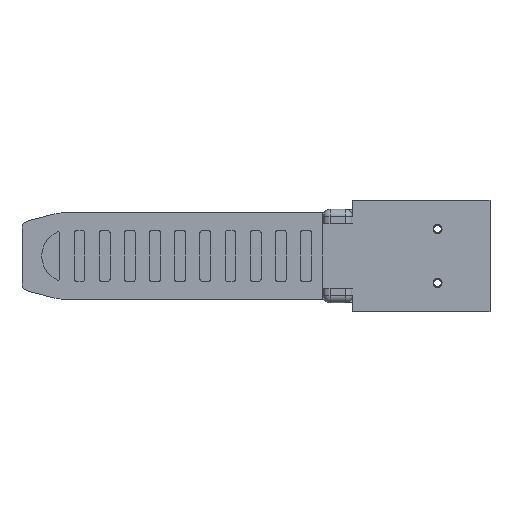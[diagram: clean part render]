
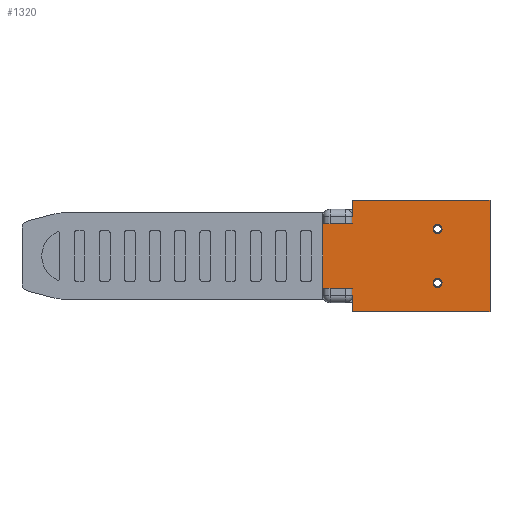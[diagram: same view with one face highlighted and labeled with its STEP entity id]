
A CAD part, front view. The second image highlights one B-rep face of the part: STEP entity #1320.
In plain terms, the highlighted planar face has unit normal (0, -1, 0).
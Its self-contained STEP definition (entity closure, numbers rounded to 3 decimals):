
#39 = CARTESIAN_POINT ( 'NONE',  ( -19., -5., 15.5 ) ) ;
#89 = DIRECTION ( 'NONE',  ( 0., 1., 0. ) ) ;
#334 = ORIENTED_EDGE ( 'NONE', *, *, #13799, .F. ) ;
#492 = LINE ( 'NONE', #6622, #7184 ) ;
#755 = EDGE_CURVE ( 'NONE', #1355, #4166, #492, .T. ) ;
#1320 = ADVANCED_FACE ( 'NONE', ( #5342, #4951, #8392 ), #7718, .F. ) ;
#1345 = VERTEX_POINT ( 'NONE', #1957 ) ;
#1355 = VERTEX_POINT ( 'NONE', #2469 ) ;
#1384 = DIRECTION ( 'NONE',  ( 1., 0., 0. ) ) ;
#1479 = EDGE_LOOP ( 'NONE', ( #5477, #13868 ) ) ;
#1492 = CARTESIAN_POINT ( 'NONE',  ( -10.8, -5., 15.5 ) ) ;
#1872 = CARTESIAN_POINT ( 'NONE',  ( 27.5, -5., 15.5 ) ) ;
#1957 = CARTESIAN_POINT ( 'NONE',  ( -10.8, -5., -15.5 ) ) ;
#1966 = ORIENTED_EDGE ( 'NONE', *, *, #755, .F. ) ;
#2060 = VERTEX_POINT ( 'NONE', #5988 ) ;
#2201 = CARTESIAN_POINT ( 'NONE',  ( -19., -5., -10.9 ) ) ;
#2317 = VERTEX_POINT ( 'NONE', #12725 ) ;
#2420 = VERTEX_POINT ( 'NONE', #6212 ) ;
#2469 = CARTESIAN_POINT ( 'NONE',  ( -10.8, -5., -10.9 ) ) ;
#2632 = CIRCLE ( 'NONE', #12466, 1.25 ) ;
#2909 = DIRECTION ( 'NONE',  ( 0., 1., 0. ) ) ;
#3205 = DIRECTION ( 'NONE',  ( 0., 0., -1. ) ) ;
#3233 = CARTESIAN_POINT ( 'NONE',  ( -10.8, -5., 15.5 ) ) ;
#3289 = CARTESIAN_POINT ( 'NONE',  ( 12.9, -5., 7.5 ) ) ;
#3629 = EDGE_CURVE ( 'NONE', #13104, #13246, #2632, .T. ) ;
#3730 = ORIENTED_EDGE ( 'NONE', *, *, #14309, .T. ) ;
#3731 = ORIENTED_EDGE ( 'NONE', *, *, #11226, .T. ) ;
#3859 = CIRCLE ( 'NONE', #6629, 1.25 ) ;
#4166 = VERTEX_POINT ( 'NONE', #2201 ) ;
#4224 = DIRECTION ( 'NONE',  ( 1., 0., 0. ) ) ;
#4445 = CIRCLE ( 'NONE', #15540, 1.25 ) ;
#4639 = LINE ( 'NONE', #11979, #14558 ) ;
#4656 = DIRECTION ( 'NONE',  ( 0., 0., 1. ) ) ;
#4804 = LINE ( 'NONE', #39, #11256 ) ;
#4925 = VECTOR ( 'NONE', #8530, 1000. ) ;
#4951 = FACE_BOUND ( 'NONE', #1479, .T. ) ;
#5125 = DIRECTION ( 'NONE',  ( 1., 0., 0. ) ) ;
#5180 = CARTESIAN_POINT ( 'NONE',  ( 12.9, -5., 7.5 ) ) ;
#5189 = DIRECTION ( 'NONE',  ( 0., 0., 1. ) ) ;
#5242 = DIRECTION ( 'NONE',  ( 0., 1., 0. ) ) ;
#5342 = FACE_BOUND ( 'NONE', #14381, .T. ) ;
#5407 = CARTESIAN_POINT ( 'NONE',  ( 12.9, -5., -8.75 ) ) ;
#5477 = ORIENTED_EDGE ( 'NONE', *, *, #6409, .T. ) ;
#5557 = EDGE_LOOP ( 'NONE', ( #1966, #8369, #3731, #14544, #7692, #10459, #334, #16946 ) ) ;
#5939 = CARTESIAN_POINT ( 'NONE',  ( -19., -5., 15.5 ) ) ;
#5988 = CARTESIAN_POINT ( 'NONE',  ( 12.9, -5., -6.25 ) ) ;
#6139 = LINE ( 'NONE', #6419, #15630 ) ;
#6212 = CARTESIAN_POINT ( 'NONE',  ( -10.8, -5., 15.5 ) ) ;
#6289 = EDGE_CURVE ( 'NONE', #2060, #12340, #3859, .T. ) ;
#6396 = EDGE_CURVE ( 'NONE', #1355, #1345, #8362, .T. ) ;
#6409 = EDGE_CURVE ( 'NONE', #13246, #13104, #11774, .T. ) ;
#6419 = CARTESIAN_POINT ( 'NONE',  ( -19., -5., 10.9 ) ) ;
#6478 = DIRECTION ( 'NONE',  ( 0., 0., 1. ) ) ;
#6619 = VECTOR ( 'NONE', #3205, 1000. ) ;
#6622 = CARTESIAN_POINT ( 'NONE',  ( -19., -5., -10.9 ) ) ;
#6629 = AXIS2_PLACEMENT_3D ( 'NONE', #8090, #89, #9397 ) ;
#7184 = VECTOR ( 'NONE', #10126, 1000. ) ;
#7303 = ORIENTED_EDGE ( 'NONE', *, *, #6289, .T. ) ;
#7670 = VERTEX_POINT ( 'NONE', #10328 ) ;
#7692 = ORIENTED_EDGE ( 'NONE', *, *, #9316, .F. ) ;
#7718 = PLANE ( 'NONE',  #14262 ) ;
#8090 = CARTESIAN_POINT ( 'NONE',  ( 12.9, -5., -7.5 ) ) ;
#8188 = CARTESIAN_POINT ( 'NONE',  ( 12.9, -5., 6.25 ) ) ;
#8362 = LINE ( 'NONE', #3233, #4925 ) ;
#8369 = ORIENTED_EDGE ( 'NONE', *, *, #6396, .T. ) ;
#8392 = FACE_OUTER_BOUND ( 'NONE', #5557, .T. ) ;
#8530 = DIRECTION ( 'NONE',  ( 0., 0., -1. ) ) ;
#8706 = VERTEX_POINT ( 'NONE', #15610 ) ;
#9316 = EDGE_CURVE ( 'NONE', #2420, #14832, #4804, .T. ) ;
#9397 = DIRECTION ( 'NONE',  ( 0., 0., 1. ) ) ;
#9400 = DIRECTION ( 'NONE',  ( 0., 0., -1. ) ) ;
#9524 = EDGE_CURVE ( 'NONE', #14832, #7670, #11640, .T. ) ;
#10077 = EDGE_CURVE ( 'NONE', #2420, #8706, #13682, .T. ) ;
#10126 = DIRECTION ( 'NONE',  ( -1., 0., 0. ) ) ;
#10328 = CARTESIAN_POINT ( 'NONE',  ( 27.5, -5., -15.5 ) ) ;
#10459 = ORIENTED_EDGE ( 'NONE', *, *, #10077, .T. ) ;
#10714 = CARTESIAN_POINT ( 'NONE',  ( 12.9, -5., -7.5 ) ) ;
#10985 = CARTESIAN_POINT ( 'NONE',  ( -19., -5., 15.5 ) ) ;
#11226 = EDGE_CURVE ( 'NONE', #1345, #7670, #4639, .T. ) ;
#11256 = VECTOR ( 'NONE', #1384, 1000. ) ;
#11640 = LINE ( 'NONE', #1872, #14700 ) ;
#11774 = CIRCLE ( 'NONE', #17073, 1.25 ) ;
#11922 = EDGE_CURVE ( 'NONE', #2317, #4166, #13510, .T. ) ;
#11979 = CARTESIAN_POINT ( 'NONE',  ( -19., -5., -15.5 ) ) ;
#12031 = DIRECTION ( 'NONE',  ( 0., 0., 1. ) ) ;
#12340 = VERTEX_POINT ( 'NONE', #5407 ) ;
#12359 = DIRECTION ( 'NONE',  ( 0., 0., -1. ) ) ;
#12412 = DIRECTION ( 'NONE',  ( 0., 1., 0. ) ) ;
#12466 = AXIS2_PLACEMENT_3D ( 'NONE', #5180, #14236, #6478 ) ;
#12725 = CARTESIAN_POINT ( 'NONE',  ( -19., -5., 10.9 ) ) ;
#13104 = VERTEX_POINT ( 'NONE', #8188 ) ;
#13246 = VERTEX_POINT ( 'NONE', #16361 ) ;
#13271 = VECTOR ( 'NONE', #9400, 1000. ) ;
#13510 = LINE ( 'NONE', #10985, #6619 ) ;
#13682 = LINE ( 'NONE', #1492, #13271 ) ;
#13799 = EDGE_CURVE ( 'NONE', #2317, #8706, #6139, .T. ) ;
#13868 = ORIENTED_EDGE ( 'NONE', *, *, #3629, .T. ) ;
#14236 = DIRECTION ( 'NONE',  ( 0., 1., 0. ) ) ;
#14262 = AXIS2_PLACEMENT_3D ( 'NONE', #5939, #5242, #5189 ) ;
#14309 = EDGE_CURVE ( 'NONE', #12340, #2060, #4445, .T. ) ;
#14381 = EDGE_LOOP ( 'NONE', ( #7303, #3730 ) ) ;
#14544 = ORIENTED_EDGE ( 'NONE', *, *, #9524, .F. ) ;
#14558 = VECTOR ( 'NONE', #4224, 1000. ) ;
#14700 = VECTOR ( 'NONE', #12359, 1000. ) ;
#14832 = VERTEX_POINT ( 'NONE', #15153 ) ;
#15153 = CARTESIAN_POINT ( 'NONE',  ( 27.5, -5., 15.5 ) ) ;
#15540 = AXIS2_PLACEMENT_3D ( 'NONE', #10714, #2909, #12031 ) ;
#15610 = CARTESIAN_POINT ( 'NONE',  ( -10.8, -5., 10.9 ) ) ;
#15630 = VECTOR ( 'NONE', #5125, 1000. ) ;
#16361 = CARTESIAN_POINT ( 'NONE',  ( 12.9, -5., 8.75 ) ) ;
#16946 = ORIENTED_EDGE ( 'NONE', *, *, #11922, .T. ) ;
#17073 = AXIS2_PLACEMENT_3D ( 'NONE', #3289, #12412, #4656 ) ;
